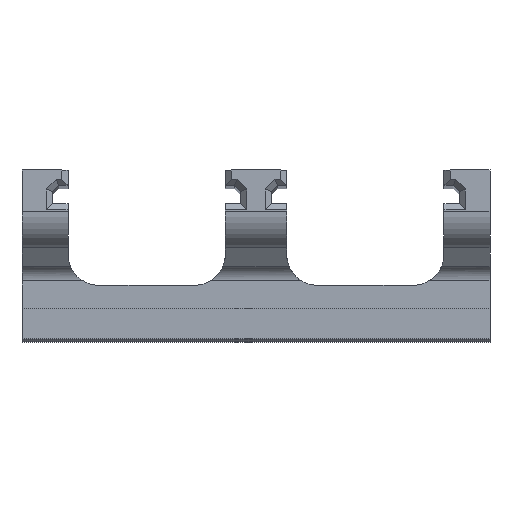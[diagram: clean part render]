
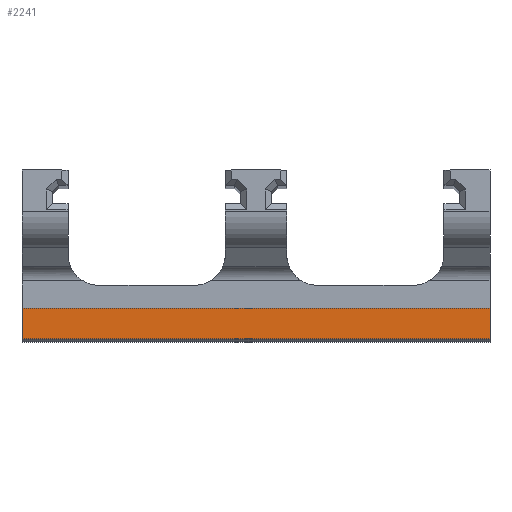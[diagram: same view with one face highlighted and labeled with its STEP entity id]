
A CAD part, top view. The second image highlights one B-rep face of the part: STEP entity #2241.
In plain terms, the highlighted planar face has unit normal (0, 0, 1).
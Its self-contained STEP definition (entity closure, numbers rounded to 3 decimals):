
#113=FACE_OUTER_BOUND('',#233,.T.);
#233=EDGE_LOOP('',(#1673,#1674,#1675,#1676));
#318=LINE('',#3129,#592);
#341=LINE('',#3232,#615);
#443=LINE('',#3548,#717);
#444=LINE('',#3549,#718);
#592=VECTOR('',#2516,10.);
#615=VECTOR('',#2571,10.);
#717=VECTOR('',#2779,10.);
#718=VECTOR('',#2780,10.);
#898=VERTEX_POINT('',#3126);
#899=VERTEX_POINT('',#3128);
#925=VERTEX_POINT('',#3231);
#1014=VERTEX_POINT('',#3547);
#1110=EDGE_CURVE('',#898,#899,#318,.T.);
#1144=EDGE_CURVE('',#899,#925,#341,.T.);
#1269=EDGE_CURVE('',#898,#1014,#443,.T.);
#1270=EDGE_CURVE('',#1014,#925,#444,.T.);
#1673=ORIENTED_EDGE('',*,*,#1269,.T.);
#1674=ORIENTED_EDGE('',*,*,#1270,.T.);
#1675=ORIENTED_EDGE('',*,*,#1144,.F.);
#1676=ORIENTED_EDGE('',*,*,#1110,.F.);
#2133=PLANE('',#2404);
#2241=ADVANCED_FACE('',(#113),#2133,.F.);
#2404=AXIS2_PLACEMENT_3D('',#3546,#2777,#2778);
#2516=DIRECTION('',(0.,1.,0.));
#2571=DIRECTION('',(1.,0.,0.));
#2777=DIRECTION('center_axis',(0.,0.,-1.));
#2778=DIRECTION('ref_axis',(-1.,0.,0.));
#2779=DIRECTION('',(1.,0.,0.));
#2780=DIRECTION('',(0.,1.,0.));
#3126=CARTESIAN_POINT('',(66.33,0.,60.));
#3128=CARTESIAN_POINT('',(66.33,2.,60.));
#3129=CARTESIAN_POINT('',(66.33,2.75,60.));
#3231=CARTESIAN_POINT('',(96.83,2.,60.));
#3232=CARTESIAN_POINT('',(54.08,2.,60.));
#3546=CARTESIAN_POINT('Origin',(68.33,5.5,60.));
#3547=CARTESIAN_POINT('',(96.83,0.,60.));
#3548=CARTESIAN_POINT('',(95.83,0.,60.));
#3549=CARTESIAN_POINT('',(96.83,9.,60.));
